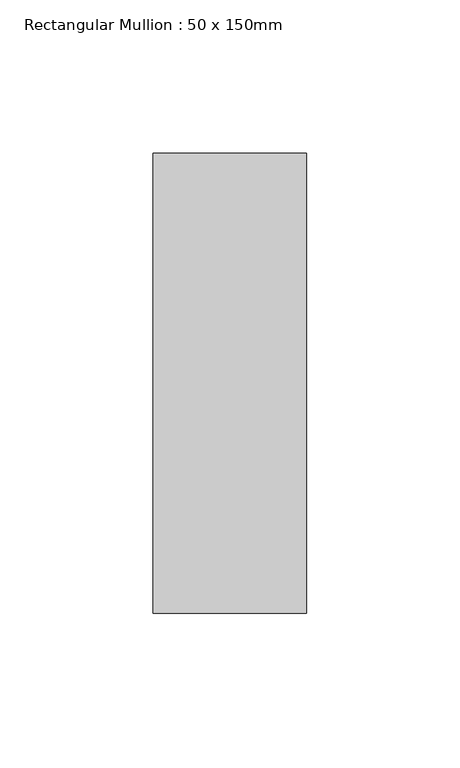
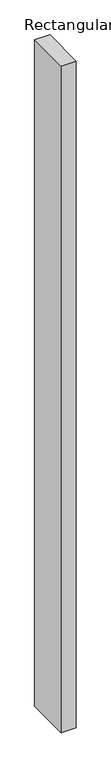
"""IFC4 building model written with IfcOpenShell, lengths in millimetres: member geometry, Rectangular Mullion : 50 x 150mm."""

from ifc_helpers import new_model, si_unit, frame, origin, place, context, project, spatial, polyline, outline, extrude, source, transform, mapped, element, save


def rectangular_mullion_50_x_150mm_8bc02e5d(model_context):
    return source(origin(), model_context, "Body", "SweptSolid", [
        extrude(outline(polyline([(0.0, 75.0), (0.0, -75.0), (-50.0, -75.0), (-50.0, 75.0), (0.0, 75.0)])), frame((0.0, 0.0, -2319.6875935), z_axis=(0.0, 0.0, 1.0), x_axis=(1.0, 0.0, 0.0)), (0.0, 0.0, 1.0), 2319.6875935),
    ])


if __name__ == "__main__":
    model = new_model("IFC4")
    model_context = context("Model", 3, world=origin())
    ifc_project = project(units=[si_unit("LENGTHUNIT", "METRE", prefix="MILLI")], contexts=[model_context])
    site = spatial("IfcSite", under=ifc_project)
    building = spatial("IfcBuilding", under=site)
    placement = place(None, origin())
    rectangular_mullion_50_x_150mm_shape = rectangular_mullion_50_x_150mm_8bc02e5d(model_context)
    element("IfcMember", 1, ObjectType="Rectangular Mullion : 50 x 150mm", at=placement, inside=building, context=model_context, shape_type="MappedRepresentation", body=[
        mapped(rectangular_mullion_50_x_150mm_shape, transform((0.0, 0.0, 0.0), x_axis=(1.0, 0.0, 0.0), y_axis=(0.0, 1.0, 0.0), z_axis=(0.0, 0.0, 1.0))),
    ])
    save(model, "model.ifc")
